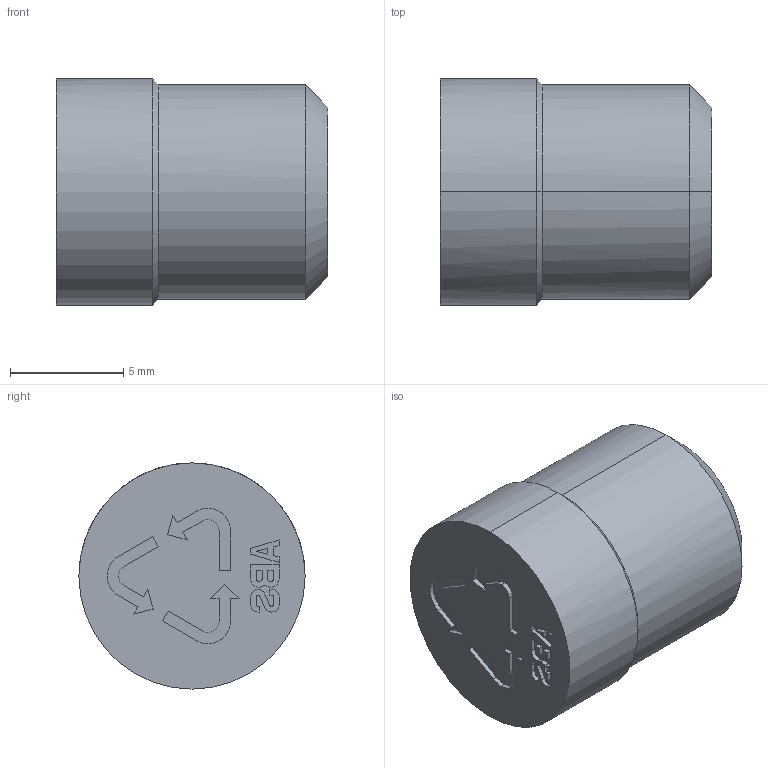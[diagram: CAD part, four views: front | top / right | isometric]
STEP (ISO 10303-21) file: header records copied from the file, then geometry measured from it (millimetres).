
FILE_DESCRIPTION(('CATIA V5 STEP Exchange'),'2;1');
FILE_NAME('C:\Users\Utente\Desktop\IO LAVORO\3D X SITO CF\X SITO\PLASTICA\CFMR\MABS10.stp','2021-03-26T14:27:30+00:00',('none'),('none'),'CATIA Version 5 Release 20 GA (IN-10)','CATIA V5 STEP AP203','none');
FILE_SCHEMA(('CONFIG_CONTROL_DESIGN'));
Length unit declared in the file: millimetre
Products named in the file (1): MABS10
Bounding box: 12 x 10 x 10 mm (x, y, z)
Volume: 811.2 mm3; surface area: 575.1 mm2
Topology: 1 solids, 1 shells, 114 faces, 315 edges, 211 vertices
Faces by surface type: plane 70, cylinder 36, cone 8
Entity records: 3669 total; most frequent: CARTESIAN_POINT 741, ORIENTED_EDGE 626, DIRECTION 527, EDGE_CURVE 313, VECTOR 221, LINE 221, VERTEX_POINT 211, AXIS2_PLACEMENT_3D 193
